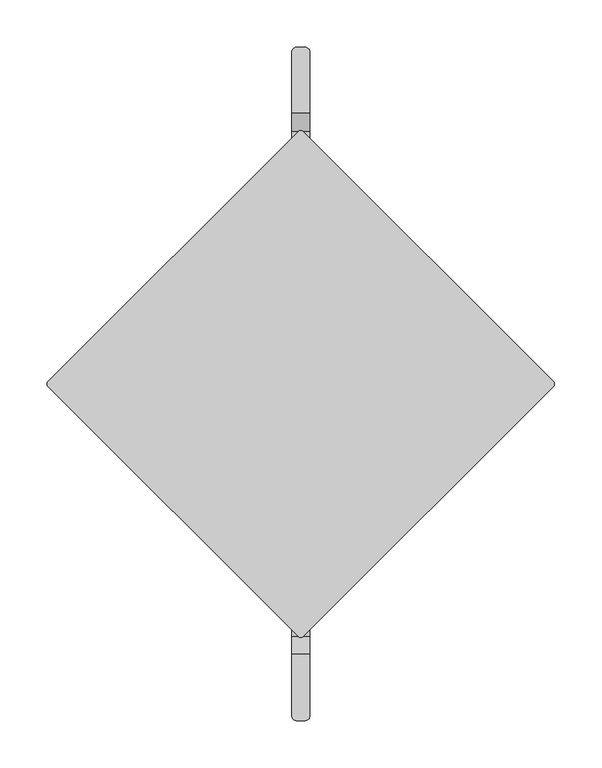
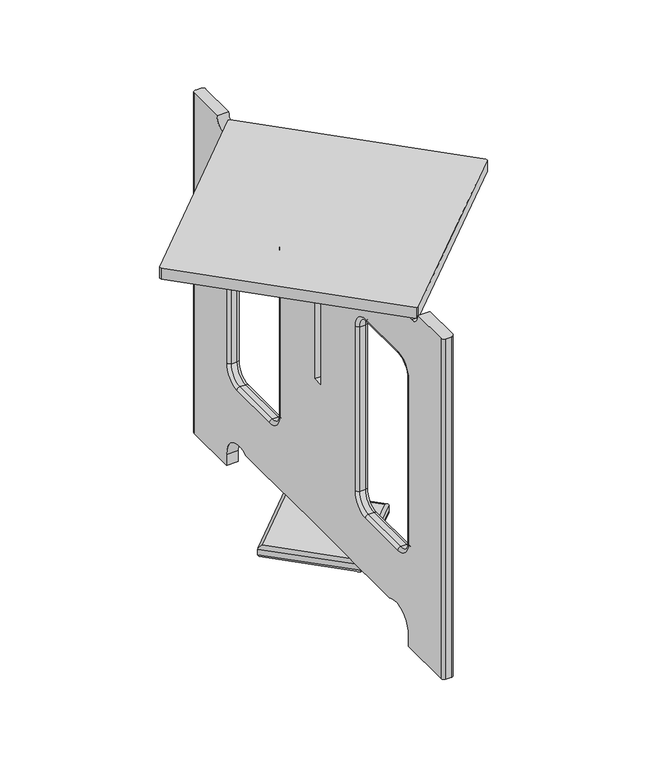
"""IFC4 building model written with IfcOpenShell, lengths in millimetres: furniture geometry, SSL-Childcraft_Outdoor-Table-Round : 2161364."""

from ifc_helpers import new_model, si_unit, point, frame, origin, place, context, project, spatial, polyline, circle_curve, ellipse_curve, trimmed, outline, extrude, source, transform, mapped, element, save
from ifc_brep_helpers import plane_surface, cylinder_surface, revolved_surface, advanced_brep


def furniture_348bbf7f(model_context):
    return source(origin(), model_context, "Body", "SolidModel", [
        extrude(outline(polyline([(-267.7238856, 1.683798), (-1.683798, 267.7238856), (1.683798, 267.7238856), (267.7238856, 1.683798), (267.7238856, -1.683798), (1.683798, -267.7238856), (-1.683798, -267.7238856), (-267.7238856, -1.683798), (-267.7238856, 1.683798)])), frame((0.0, 0.0, 571.499954), z_axis=(0.0, 0.0, 1.0), x_axis=(1.0, 0.0, 0.0)), (0.0, 0.0, 1.0), 19.050046),
        advanced_brep(
        [(0.0, -107.7630735, 36.5124717), (0.0, -101.0278814, 31.7499717), (101.0278814, 0.0, 31.7499717), (107.7630735, 0.0, 36.5124717), (107.7630735, 0.0, 46.0374717), (0.0, -107.7630735, 46.0374717), (101.0278814, 0.0, 50.7999717), (0.0, -101.0278814, 50.7999717), (0.0, 101.0278814, 31.7499717), (0.0, 107.7630735, 36.5124717), (0.0, 107.7630735, 46.0374717), (0.0, 101.0278814, 50.7999717), (-101.0278814, 0.0, 31.7499717), (-107.7630735, 0.0, 36.5124717), (-107.7630735, 0.0, 46.0374717), (-101.0278814, 0.0, 50.7999717)],
        [
            (0, 1, ellipse_curve(frame((0.0, -101.0278814, 36.5124717), z_axis=(1.0, 0.0, 0.0), x_axis=(0.0, -1.0, 0.0)), 6.7351921, 4.7625)),
            (1, 2),
            (2, 3, ellipse_curve(frame((101.0278814, 0.0, 36.5124717), z_axis=(0.0, -1.0, 0.0), x_axis=(-1.0, 0.0, 0.0)), 6.7351921, 4.7625)),
            (3, 0),
            (3, 4),
            (4, 5),
            (5, 0),
            (4, 6, ellipse_curve(frame((101.0278814, 0.0, 46.0374717), z_axis=(0.0, -1.0, 0.0), x_axis=(-1.0, 0.0, 0.0)), 6.7351921, 4.7625)),
            (6, 7),
            (7, 5, ellipse_curve(frame((0.0, -101.0278814, 46.0374717), z_axis=(1.0, 0.0, 0.0), x_axis=(0.0, -1.0, 0.0)), 6.7351921, 4.7625)),
            (2, 8),
            (8, 9, ellipse_curve(frame((0.0, 101.0278814, 36.5124717), z_axis=(1.0, 0.0, 0.0), x_axis=(0.0, -1.0, 0.0)), 6.7351921, 4.7625)),
            (9, 3),
            (9, 10),
            (10, 4),
            (10, 11, ellipse_curve(frame((0.0, 101.0278814, 46.0374717), z_axis=(1.0, 0.0, 0.0), x_axis=(0.0, -1.0, 0.0)), 6.7351921, 4.7625)),
            (11, 6),
            (8, 12),
            (12, 13, ellipse_curve(frame((-101.0278814, 0.0, 36.5124717), z_axis=(0.0, 1.0, 0.0), x_axis=(1.0, 0.0, 0.0)), 6.7351921, 4.7625)),
            (13, 9),
            (13, 14),
            (14, 10),
            (14, 15, ellipse_curve(frame((-101.0278814, 0.0, 46.0374717), z_axis=(0.0, 1.0, 0.0), x_axis=(1.0, 0.0, 0.0)), 6.7351921, 4.7625)),
            (15, 11),
            (1, 12),
            (0, 13),
            (5, 14),
            (7, 15),
        ],
        [
            cylinder_surface(frame((-3.367596, -104.3954774, 36.5124717), z_axis=(-0.7071067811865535, -0.7071067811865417, 0.0), x_axis=(-0.7071067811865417, 0.7071067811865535, 0.0)), 4.7625),
            plane_surface(frame((0.0, -107.7630735, 36.5124717), z_axis=(0.7071067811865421, -0.707106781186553, 0.0), x_axis=(0.707106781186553, 0.7071067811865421, 0.0))),
            cylinder_surface(frame((-3.367596, -104.3954774, 46.0374717), z_axis=(-0.7071067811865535, -0.7071067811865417, 0.0), x_axis=(-0.7071067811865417, 0.7071067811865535, 0.0)), 4.7625),
            cylinder_surface(frame((104.3954774, -3.367596, 36.5124717), z_axis=(0.7071067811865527, -0.7071067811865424, 0.0), x_axis=(-0.7071067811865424, -0.7071067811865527, 0.0)), 4.7625),
            plane_surface(frame((107.7630735, 0.0, 36.5124717), z_axis=(0.7071067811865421, 0.707106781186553, 0.0), x_axis=(-0.707106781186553, 0.7071067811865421, 0.0))),
            cylinder_surface(frame((104.3954774, -3.367596, 46.0374717), z_axis=(0.7071067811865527, -0.7071067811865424, 0.0), x_axis=(-0.7071067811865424, -0.7071067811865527, 0.0)), 4.7625),
            cylinder_surface(frame((3.367596, 104.3954774, 36.5124717), z_axis=(0.7071067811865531, 0.707106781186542, 0.0), x_axis=(0.707106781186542, -0.7071067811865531, 0.0)), 4.7625),
            plane_surface(frame((0.0, 107.7630735, 36.5124717), z_axis=(-0.7071067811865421, 0.707106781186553, 0.0), x_axis=(-0.707106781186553, -0.7071067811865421, 0.0))),
            cylinder_surface(frame((3.367596, 104.3954774, 46.0374717), z_axis=(0.7071067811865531, 0.707106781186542, 0.0), x_axis=(0.707106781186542, -0.7071067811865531, 0.0)), 4.7625),
            plane_surface(frame((-99.9053493, 0.0, 31.7499717), z_axis=(0.0, 0.0, -1.0), x_axis=(0.7071067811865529, -0.7071067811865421, 0.0))),
            cylinder_surface(frame((-104.3954774, 3.367596, 36.5124717), z_axis=(-0.707106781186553, 0.707106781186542, 0.0), x_axis=(0.707106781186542, 0.707106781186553, 0.0)), 4.7625),
            plane_surface(frame((-107.7630735, 0.0, 36.5124717), z_axis=(-0.7071067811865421, -0.707106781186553, 0.0), x_axis=(0.707106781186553, -0.7071067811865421, 0.0))),
            cylinder_surface(frame((-104.3954774, 3.367596, 46.0374717), z_axis=(-0.707106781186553, 0.707106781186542, 0.0), x_axis=(0.707106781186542, 0.707106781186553, 0.0)), 4.7625),
            plane_surface(frame((-101.0278814, 0.0, 50.7999717), z_axis=(0.0, 0.0, 1.0000000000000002), x_axis=(0.707106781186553, -0.7071067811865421, 0.0))),
        ],
        [
            (0, [[1, 2, 3, 4]]),
            (1, [[-4, 5, 6, 7]]),
            (2, [[-6, 8, 9, 10]]),
            (3, [[-3, 11, 12, 13]]),
            (4, [[-5, -13, 14, 15]]),
            (5, [[-8, -15, 16, 17]]),
            (6, [[-12, 18, 19, 20]]),
            (7, [[-14, -20, 21, 22]]),
            (8, [[-16, -22, 23, 24]]),
            (9, [[-2, 25, -18, -11]]),
            (10, [[-1, 26, -19, -25]]),
            (11, [[-7, 27, -21, -26]]),
            (12, [[-10, 28, -23, -27]]),
            (13, [[-9, -17, -24, -28]]),
        ],
    ),
        advanced_brep(
        [(9.525, 9.525, 571.499954), (9.525, 9.525, 301.6249575), (9.525, -9.525, 301.6249575), (9.525, -9.525, 571.499954), (9.525, -266.7, 571.499954), (9.525, -285.7499947, 590.5499487), (9.525, -350.8375, 590.55), (9.525, -350.8375, 0.0), (9.525, -258.7625106, 0.0), (9.525, -258.7625106, 19.0499717), (9.525, -204.2194766, 50.7999717), (9.525, 204.2194554, 50.7999717), (9.525, 258.7624894, 19.0499717), (9.525, 258.7624894, 0.0), (9.525, 350.8375, 0.0), (9.525, 350.8375, 590.55), (9.525, 285.7500064, 590.5499636), (9.525, 266.6999968, 571.499954), (9.525, -257.9687606, 463.5372433), (9.525, -228.5873106, 492.9186933), (9.525, -136.5250106, 492.9186933), (9.525, -107.1562606, 463.5499433), (9.525, -107.1562606, 177.7999717), (9.525, -136.5250106, 148.4312217), (9.525, -228.6000106, 148.4312217), (9.525, -257.9687606, 177.7999717), (9.525, 107.1562606, 463.5499433), (9.525, 136.5250106, 492.9186933), (9.525, 228.5873106, 492.9186933), (9.525, 257.9687606, 463.5372433), (9.525, 257.9687606, 177.7999717), (9.525, 228.6000106, 148.4312217), (9.525, 136.5250106, 148.4312217), (9.525, 107.1562606, 177.7999717), (-9.525, 9.525, 571.499954), (-9.525, 266.6999968, 571.499954), (-9.525, 285.7500064, 590.5499636), (-9.525, 350.8375, 590.55), (-9.525, 350.8375, 0.0), (-9.525, 258.7624894, 0.0), (-9.525, 258.7624894, 19.0499717), (-9.525, 204.2194554, 50.7999717), (-9.525, -204.2194766, 50.7999717), (-9.525, -258.7625106, 19.0499717), (-9.525, -258.7625106, 0.0), (-9.525, -350.8375, 0.0), (-9.525, -350.8375, 590.55), (-9.525, -285.7499947, 590.5499487), (-9.525, -266.7, 571.499954), (-9.525, -9.525, 571.499954), (-9.525, -9.525, 301.6249575), (-9.525, 9.525, 301.6249575), (-9.525, -228.5873106, 492.9186933), (-9.525, -257.9687606, 463.5372433), (-9.525, -257.9687606, 177.7999717), (-9.525, -228.6000106, 148.4312217), (-9.525, -136.5250106, 148.4312217), (-9.525, -107.1562606, 177.7999717), (-9.525, -107.1562606, 463.5499433), (-9.525, -136.5250106, 492.9186933), (-9.525, 136.5250106, 492.9186933), (-9.525, 107.1562606, 463.5499433), (-9.525, 107.1562606, 177.7999717), (-9.525, 136.5250106, 148.4312217), (-9.525, 228.6000106, 148.4312217), (-9.525, 257.9687606, 177.7999717), (-9.525, 257.9687606, 463.5372433), (-9.525, 228.5873106, 492.9186933), (-4.7625, 355.6, 0.0), (4.7625, 355.6, 0.0), (4.7625, -355.6, 0.0), (-4.7625, -355.6, 0.0), (4.7625, 355.6, 590.5499636), (-4.7625, 355.6, 590.5499636), (-4.7625, -355.6, 590.5499636), (4.7625, -355.6, 590.5499636), (4.7625, -253.2062606, 463.5372433), (4.7625, -228.5873106, 488.1561933), (-4.7625, -253.2062606, 463.5372433), (-4.7625, -228.5873106, 488.1561933), (4.7625, -253.2062606, 177.7999717), (-4.7625, -253.2062606, 177.7999717), (4.7625, -228.6000106, 153.1937217), (-4.7625, -228.6000106, 153.1937217), (4.7625, -136.5250106, 153.1937217), (-4.7625, -136.5250106, 153.1937217), (4.7625, -111.9187606, 177.7999717), (-4.7625, -111.9187606, 177.7999717), (4.7625, -111.9187606, 463.5499433), (-4.7625, -111.9187606, 463.5499433), (4.7625, -136.5250106, 488.1561933), (-4.7625, -136.5250106, 488.1561933), (4.7625, 111.9187606, 463.5499433), (4.7625, 136.5250106, 488.1561933), (-4.7625, 111.9187606, 463.5499433), (-4.7625, 136.5250106, 488.1561933), (4.7625, 111.9187606, 177.7999717), (-4.7625, 111.9187606, 177.7999717), (4.7625, 136.5250106, 153.1937217), (-4.7625, 136.5250106, 153.1937217), (4.7625, 228.6000106, 153.1937217), (-4.7625, 228.6000106, 153.1937217), (4.7625, 253.2062606, 177.7999717), (-4.7625, 253.2062606, 177.7999717), (4.7625, 253.2062606, 463.5372433), (-4.7625, 253.2062606, 463.5372433), (4.7625, 228.5873106, 488.1561933), (-4.7625, 228.5873106, 488.1561933)],
        [
            (0, 1),
            (1, 2),
            (2, 3),
            (3, 4),
            (4, 5, circle_curve(frame((9.525, -266.7, 590.5499487), z_axis=(-1.0, 0.0, 0.0), x_axis=(0.0, 1.0, 0.0)), 19.0499947)),
            (5, 6),
            (6, 7),
            (7, 8),
            (8, 9),
            (9, 10, circle_curve(frame((9.525, -222.2500106, 19.0499717), z_axis=(-1.0, 0.0, 0.0), x_axis=(0.0, 1.0, 0.0)), 36.5125)),
            (10, 11),
            (11, 12, circle_curve(frame((9.525, 222.2499894, 19.0499717), z_axis=(-1.0, 0.0, 0.0), x_axis=(0.0, 1.0, 0.0)), 36.5125)),
            (12, 13),
            (13, 14),
            (14, 15),
            (15, 16),
            (16, 17, circle_curve(frame((9.525, 266.6999968, 590.5499636), z_axis=(-1.0, 0.0, 0.0), x_axis=(0.0, 1.0, 0.0)), 19.0500096)),
            (17, 0),
            (18, 19, circle_curve(frame((9.525, -228.5873106, 463.5372433), z_axis=(-1.0, 0.0, 0.0), x_axis=(0.0, 0.0, 1.0)), 29.38145)),
            (19, 20),
            (20, 21, circle_curve(frame((9.525, -136.5250106, 463.5499433), z_axis=(-1.0, 0.0, 0.0), x_axis=(0.0, 1.0, 0.0)), 29.36875)),
            (21, 22),
            (22, 23, circle_curve(frame((9.525, -136.5250106, 177.7999717), z_axis=(-1.0, 0.0, 0.0), x_axis=(0.0, 0.0, -1.0)), 29.36875)),
            (23, 24),
            (24, 25, circle_curve(frame((9.525, -228.6000106, 177.7999717), z_axis=(-1.0, 0.0, 0.0), x_axis=(0.0, -1.0, 0.0)), 29.36875)),
            (25, 18),
            (26, 27, circle_curve(frame((9.525, 136.5250106, 463.5499433), z_axis=(-1.0, 0.0, 0.0), x_axis=(0.0, 0.0, 1.0)), 29.36875)),
            (27, 28),
            (28, 29, circle_curve(frame((9.525, 228.5873106, 463.5372433), z_axis=(-1.0, 0.0, 0.0), x_axis=(0.0, 1.0, 0.0)), 29.38145)),
            (29, 30),
            (30, 31, circle_curve(frame((9.525, 228.6000106, 177.7999717), z_axis=(-1.0, 0.0, 0.0), x_axis=(0.0, 0.0, -1.0)), 29.36875)),
            (31, 32),
            (32, 33, circle_curve(frame((9.525, 136.5250106, 177.7999717), z_axis=(-1.0, 0.0, 0.0), x_axis=(0.0, -1.0, 0.0)), 29.36875)),
            (33, 26),
            (34, 35),
            (35, 36, circle_curve(frame((-9.525, 266.6999968, 590.5499636), z_axis=(1.0, 0.0, 0.0), x_axis=(0.0, 1.0, 0.0)), 19.0500096)),
            (36, 37),
            (37, 38),
            (38, 39),
            (39, 40),
            (40, 41, circle_curve(frame((-9.525, 222.2499894, 19.0499717), z_axis=(1.0, 0.0, 0.0), x_axis=(0.0, 1.0, 0.0)), 36.5125)),
            (41, 42),
            (42, 43, circle_curve(frame((-9.525, -222.2500106, 19.0499717), z_axis=(1.0, 0.0, 0.0), x_axis=(0.0, 1.0, 0.0)), 36.5125)),
            (43, 44),
            (44, 45),
            (45, 46),
            (46, 47),
            (47, 48, circle_curve(frame((-9.525, -266.7, 590.5499487), z_axis=(1.0, 0.0, 0.0), x_axis=(0.0, 1.0, 0.0)), 19.0499947)),
            (48, 49),
            (49, 50),
            (50, 51),
            (51, 34),
            (52, 53, circle_curve(frame((-9.525, -228.5873106, 463.5372433), z_axis=(1.0, 0.0, 0.0), x_axis=(0.0, 0.0, 1.0)), 29.38145)),
            (53, 54),
            (54, 55, circle_curve(frame((-9.525, -228.6000106, 177.7999717), z_axis=(1.0, 0.0, 0.0), x_axis=(0.0, -1.0, 0.0)), 29.36875)),
            (55, 56),
            (56, 57, circle_curve(frame((-9.525, -136.5250106, 177.7999717), z_axis=(1.0, 0.0, 0.0), x_axis=(0.0, 0.0, -1.0)), 29.36875)),
            (57, 58),
            (58, 59, circle_curve(frame((-9.525, -136.5250106, 463.5499433), z_axis=(1.0, 0.0, 0.0), x_axis=(0.0, 1.0, 0.0)), 29.36875)),
            (59, 52),
            (60, 61, circle_curve(frame((-9.525, 136.5250106, 463.5499433), z_axis=(1.0, 0.0, 0.0), x_axis=(0.0, 0.0, 1.0)), 29.36875)),
            (61, 62),
            (62, 63, circle_curve(frame((-9.525, 136.5250106, 177.7999717), z_axis=(1.0, 0.0, 0.0), x_axis=(0.0, -1.0, 0.0)), 29.36875)),
            (63, 64),
            (64, 65, circle_curve(frame((-9.525, 228.6000106, 177.7999717), z_axis=(1.0, 0.0, 0.0), x_axis=(0.0, 0.0, -1.0)), 29.36875)),
            (65, 66),
            (66, 67, circle_curve(frame((-9.525, 228.5873106, 463.5372433), z_axis=(1.0, 0.0, 0.0), x_axis=(0.0, 1.0, 0.0)), 29.38145)),
            (67, 60),
            (13, 39),
            (38, 68, circle_curve(frame((-4.7625, 350.8375, 0.0), z_axis=(0.0, 0.0, -1.0), x_axis=(1.0, 0.0, 0.0)), 4.7625)),
            (68, 69),
            (69, 14, circle_curve(frame((4.7625, 350.8375, 0.0), z_axis=(0.0, 0.0, -1.0), x_axis=(1.0, 0.0, 0.0)), 4.7625)),
            (44, 8),
            (7, 70, circle_curve(frame((4.7625, -350.8375, 0.0), z_axis=(0.0, 0.0, -1.0), x_axis=(1.0, 0.0, 0.0)), 4.7625)),
            (70, 71),
            (71, 45, circle_curve(frame((-4.7625, -350.8375, 0.0), z_axis=(0.0, 0.0, -1.0), x_axis=(1.0, 0.0, 0.0)), 4.7625)),
            (36, 16),
            (15, 72, circle_curve(frame((4.7625, 350.8375, 590.5499636), z_axis=(0.0, 0.0, 1.0), x_axis=(1.0, 0.0, 0.0)), 4.7625)),
            (72, 73),
            (73, 37, circle_curve(frame((-4.7625, 350.8375, 590.5499636), z_axis=(0.0, 0.0, 1.0), x_axis=(1.0, 0.0, 0.0)), 4.7625)),
            (5, 47),
            (46, 74, circle_curve(frame((-4.7625, -350.8375, 590.5499636), z_axis=(0.0, 0.0, 1.0), x_axis=(1.0, 0.0, 0.0)), 4.7625)),
            (74, 75),
            (75, 6, circle_curve(frame((4.7625, -350.8375, 590.5499636), z_axis=(0.0, 0.0, 1.0), x_axis=(1.0, 0.0, 0.0)), 4.7625)),
            (35, 17),
            (34, 0),
            (51, 1),
            (50, 2),
            (49, 3),
            (48, 4),
            (43, 9),
            (42, 10),
            (41, 11),
            (40, 12),
            (72, 69),
            (68, 73),
            (71, 74),
            (70, 75),
            (76, 77, circle_curve(frame((4.7625, -228.5873106, 463.5372433), z_axis=(-1.0, 0.0, 0.0), x_axis=(0.0, 0.0, 1.0)), 24.61895)),
            (77, 19, circle_curve(frame((4.7625, -228.5873106, 492.9186933), z_axis=(0.0, -1.0, 0.0), x_axis=(0.0, 0.0, -1.0)), 4.7625)),
            (18, 76, circle_curve(frame((4.7625, -257.9687606, 463.5372433), z_axis=(0.0, 0.0, 1.0), x_axis=(0.0, 1.0, 0.0)), 4.7625)),
            (76, 78),
            (78, 79, circle_curve(frame((-4.7625, -228.5873106, 463.5372433), z_axis=(-1.0, 0.0, 0.0), x_axis=(0.0, 0.0, 1.0)), 24.61895)),
            (79, 77),
            (78, 53, circle_curve(frame((-4.7625, -257.9687606, 463.5372433), z_axis=(0.0, 0.0, 1.0), x_axis=(0.0, 1.0, 0.0)), 4.7625)),
            (52, 79, circle_curve(frame((-4.7625, -228.5873106, 492.9186933), z_axis=(0.0, -1.0, 0.0), x_axis=(0.0, 0.0, -1.0)), 4.7625)),
            (25, 80, circle_curve(frame((4.7625, -257.9687606, 177.7999717), z_axis=(0.0, 0.0, 1.0), x_axis=(0.0, 1.0, 0.0)), 4.7625)),
            (80, 76),
            (80, 81),
            (81, 78),
            (81, 54, circle_curve(frame((-4.7625, -257.9687606, 177.7999717), z_axis=(0.0, 0.0, 1.0), x_axis=(0.0, 1.0, 0.0)), 4.7625)),
            (24, 82, circle_curve(frame((4.7625, -228.6000106, 148.4312217), z_axis=(0.0, -1.0, 0.0), x_axis=(0.0, 0.0, 1.0)), 4.7625)),
            (82, 80, circle_curve(frame((4.7625, -228.6000106, 177.7999717), z_axis=(-1.0, 0.0, 0.0), x_axis=(0.0, -1.0, 0.0)), 24.60625)),
            (82, 83),
            (83, 81, circle_curve(frame((-4.7625, -228.6000106, 177.7999717), z_axis=(-1.0, 0.0, 0.0), x_axis=(0.0, -1.0, 0.0)), 24.60625)),
            (83, 55, circle_curve(frame((-4.7625, -228.6000106, 148.4312217), z_axis=(0.0, -1.0, 0.0), x_axis=(0.0, 0.0, 1.0)), 4.7625)),
            (23, 84, circle_curve(frame((4.7625, -136.5250106, 148.4312217), z_axis=(0.0, -1.0, 0.0), x_axis=(0.0, 0.0, 1.0)), 4.7625)),
            (84, 82),
            (84, 85),
            (85, 83),
            (85, 56, circle_curve(frame((-4.7625, -136.5250106, 148.4312217), z_axis=(0.0, -1.0, 0.0), x_axis=(0.0, 0.0, 1.0)), 4.7625)),
            (22, 86, circle_curve(frame((4.7625, -107.1562606, 177.7999717), z_axis=(0.0, 0.0, -1.0), x_axis=(0.0, -1.0, 0.0)), 4.7625)),
            (86, 84, circle_curve(frame((4.7625, -136.5250106, 177.7999717), z_axis=(-1.0, 0.0, 0.0), x_axis=(0.0, 0.0, -1.0)), 24.60625)),
            (86, 87),
            (87, 85, circle_curve(frame((-4.7625, -136.5250106, 177.7999717), z_axis=(-1.0, 0.0, 0.0), x_axis=(0.0, 0.0, -1.0)), 24.60625)),
            (87, 57, circle_curve(frame((-4.7625, -107.1562606, 177.7999717), z_axis=(0.0, 0.0, -1.0), x_axis=(0.0, -1.0, 0.0)), 4.7625)),
            (21, 88, circle_curve(frame((4.7625, -107.1562606, 463.5499433), z_axis=(0.0, 0.0, -1.0), x_axis=(0.0, -1.0, 0.0)), 4.7625)),
            (88, 86),
            (88, 89),
            (89, 87),
            (89, 58, circle_curve(frame((-4.7625, -107.1562606, 463.5499433), z_axis=(0.0, 0.0, -1.0), x_axis=(0.0, -1.0, 0.0)), 4.7625)),
            (20, 90, circle_curve(frame((4.7625, -136.5250106, 492.9186933), z_axis=(0.0, 1.0, 0.0), x_axis=(0.0, 0.0, -1.0)), 4.7625)),
            (90, 88, circle_curve(frame((4.7625, -136.5250106, 463.5499433), z_axis=(-1.0, 0.0, 0.0), x_axis=(0.0, 1.0, 0.0)), 24.60625)),
            (90, 91),
            (91, 89, circle_curve(frame((-4.7625, -136.5250106, 463.5499433), z_axis=(-1.0, 0.0, 0.0), x_axis=(0.0, 1.0, 0.0)), 24.60625)),
            (91, 59, circle_curve(frame((-4.7625, -136.5250106, 492.9186933), z_axis=(0.0, 1.0, 0.0), x_axis=(0.0, 0.0, -1.0)), 4.7625)),
            (77, 90),
            (79, 91),
            (92, 93, circle_curve(frame((4.7625, 136.5250106, 463.5499433), z_axis=(-1.0, 0.0, 0.0), x_axis=(0.0, 0.0, 1.0)), 24.60625)),
            (93, 27, circle_curve(frame((4.7625, 136.5250106, 492.9186933), z_axis=(0.0, -1.0, 0.0), x_axis=(0.0, 0.0, -1.0)), 4.7625)),
            (26, 92, circle_curve(frame((4.7625, 107.1562606, 463.5499433), z_axis=(0.0, 0.0, 1.0), x_axis=(0.0, 1.0, 0.0)), 4.7625)),
            (92, 94),
            (94, 95, circle_curve(frame((-4.7625, 136.5250106, 463.5499433), z_axis=(-1.0, 0.0, 0.0), x_axis=(0.0, 0.0, 1.0)), 24.60625)),
            (95, 93),
            (94, 61, circle_curve(frame((-4.7625, 107.1562606, 463.5499433), z_axis=(0.0, 0.0, 1.0), x_axis=(0.0, 1.0, 0.0)), 4.7625)),
            (60, 95, circle_curve(frame((-4.7625, 136.5250106, 492.9186933), z_axis=(0.0, -1.0, 0.0), x_axis=(0.0, 0.0, -1.0)), 4.7625)),
            (33, 96, circle_curve(frame((4.7625, 107.1562606, 177.7999717), z_axis=(0.0, 0.0, 1.0), x_axis=(0.0, 1.0, 0.0)), 4.7625)),
            (96, 92),
            (96, 97),
            (97, 94),
            (97, 62, circle_curve(frame((-4.7625, 107.1562606, 177.7999717), z_axis=(0.0, 0.0, 1.0), x_axis=(0.0, 1.0, 0.0)), 4.7625)),
            (32, 98, circle_curve(frame((4.7625, 136.5250106, 148.4312217), z_axis=(0.0, -1.0, 0.0), x_axis=(0.0, 0.0, 1.0)), 4.7625)),
            (98, 96, circle_curve(frame((4.7625, 136.5250106, 177.7999717), z_axis=(-1.0, 0.0, 0.0), x_axis=(0.0, -1.0, 0.0)), 24.60625)),
            (98, 99),
            (99, 97, circle_curve(frame((-4.7625, 136.5250106, 177.7999717), z_axis=(-1.0, 0.0, 0.0), x_axis=(0.0, -1.0, 0.0)), 24.60625)),
            (99, 63, circle_curve(frame((-4.7625, 136.5250106, 148.4312217), z_axis=(0.0, -1.0, 0.0), x_axis=(0.0, 0.0, 1.0)), 4.7625)),
            (31, 100, circle_curve(frame((4.7625, 228.6000106, 148.4312217), z_axis=(0.0, -1.0, 0.0), x_axis=(0.0, 0.0, 1.0)), 4.7625)),
            (100, 98),
            (100, 101),
            (101, 99),
            (101, 64, circle_curve(frame((-4.7625, 228.6000106, 148.4312217), z_axis=(0.0, -1.0, 0.0), x_axis=(0.0, 0.0, 1.0)), 4.7625)),
            (30, 102, circle_curve(frame((4.7625, 257.9687606, 177.7999717), z_axis=(0.0, 0.0, -1.0), x_axis=(0.0, -1.0, 0.0)), 4.7625)),
            (102, 100, circle_curve(frame((4.7625, 228.6000106, 177.7999717), z_axis=(-1.0, 0.0, 0.0), x_axis=(0.0, 0.0, -1.0)), 24.60625)),
            (102, 103),
            (103, 101, circle_curve(frame((-4.7625, 228.6000106, 177.7999717), z_axis=(-1.0, 0.0, 0.0), x_axis=(0.0, 0.0, -1.0)), 24.60625)),
            (103, 65, circle_curve(frame((-4.7625, 257.9687606, 177.7999717), z_axis=(0.0, 0.0, -1.0), x_axis=(0.0, -1.0, 0.0)), 4.7625)),
            (29, 104, circle_curve(frame((4.7625, 257.9687606, 463.5372433), z_axis=(0.0, 0.0, -1.0), x_axis=(0.0, -1.0, 0.0)), 4.7625)),
            (104, 102),
            (104, 105),
            (105, 103),
            (105, 66, circle_curve(frame((-4.7625, 257.9687606, 463.5372433), z_axis=(0.0, 0.0, -1.0), x_axis=(0.0, -1.0, 0.0)), 4.7625)),
            (28, 106, circle_curve(frame((4.7625, 228.5873106, 492.9186933), z_axis=(0.0, 1.0, 0.0), x_axis=(0.0, 0.0, -1.0)), 4.7625)),
            (106, 104, circle_curve(frame((4.7625, 228.5873106, 463.5372433), z_axis=(-1.0, 0.0, 0.0), x_axis=(0.0, 1.0, 0.0)), 24.61895)),
            (106, 107),
            (107, 105, circle_curve(frame((-4.7625, 228.5873106, 463.5372433), z_axis=(-1.0, 0.0, 0.0), x_axis=(0.0, 1.0, 0.0)), 24.61895)),
            (107, 67, circle_curve(frame((-4.7625, 228.5873106, 492.9186933), z_axis=(0.0, 1.0, 0.0), x_axis=(0.0, 0.0, -1.0)), 4.7625)),
            (93, 106),
            (95, 107),
        ],
        [
            plane_surface(frame((9.525, 258.7625106, 177.7999717), z_axis=(1.0, 0.0, 0.0), x_axis=(0.0, 0.0, -1.0))),
            plane_surface(frame((-9.525, 258.7625106, 177.7999717), z_axis=(-1.0, 0.0, 0.0), x_axis=(0.0, 0.0, 1.0))),
            plane_surface(frame((9.525, 258.7624894, 0.0), z_axis=(0.0, 0.0, -1.0), x_axis=(-1.0, 0.0, 0.0))),
            plane_surface(frame((9.525, 350.04375, 590.5499636), z_axis=(0.0, 0.0, 1.0), x_axis=(-1.0, 0.0, 0.0))),
            revolved_surface(polyline([(-9.525, 285.7500064, 590.5499636), (9.525, 285.7500064, 590.5499636)]), (0.0, 266.6999968, 590.5499636), (-1.0, 0.0, 0.0)),
            plane_surface(frame((9.525, 266.6999968, 571.499954), z_axis=(0.0, 0.0, 1.0), x_axis=(-1.0, 0.0, 0.0))),
            plane_surface(frame((9.525, 9.525, 571.499954), z_axis=(0.0, -1.0, 0.0), x_axis=(-1.0, 0.0, 0.0))),
            plane_surface(frame((9.525, 9.525, 301.6249575), z_axis=(0.0, 0.0, 1.0), x_axis=(-1.0, 0.0, 0.0))),
            plane_surface(frame((9.525, -9.525, 301.6249575), z_axis=(0.0, 1.0, 0.0), x_axis=(-1.0, 0.0, 0.0))),
            plane_surface(frame((9.525, -9.525, 571.499954), z_axis=(0.0, 0.0, 1.0), x_axis=(-1.0, 0.0, 0.0))),
            revolved_surface(polyline([(-9.525, -247.65000529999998, 590.5499487), (9.525, -247.65000529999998, 590.5499487)]), (0.0, -266.7, 590.5499487), (-1.0, 0.0, 0.0)),
            plane_surface(frame((9.525, -258.7625106, 0.0), z_axis=(0.0, 1.0, 0.0), x_axis=(-1.0, 0.0, 0.0))),
            revolved_surface(polyline([(-9.525, -185.7375106, 19.0499717), (9.525, -185.7375106, 19.0499717)]), (0.0, -222.2500106, 19.0499717), (-1.0, 0.0, 0.0)),
            plane_surface(frame((9.525, -204.2194766, 50.7999717), z_axis=(0.0, 0.0, -1.0), x_axis=(-1.0, 0.0, 0.0))),
            revolved_surface(polyline([(-9.525, 258.7624894, 19.0499717), (9.525, 258.7624894, 19.0499717)]), (0.0, 222.2499894, 19.0499717), (-1.0, 0.0, 0.0)),
            plane_surface(frame((9.525, 258.7624894, 19.0499717), z_axis=(0.0, -1.0, 0.0), x_axis=(-1.0, 0.0, 0.0))),
            plane_surface(frame((4.7625, 355.6, 590.55), z_axis=(0.0, 1.0, 0.0), x_axis=(0.0, 0.0, -1.0))),
            cylinder_surface(frame((-4.7625, 350.8375, 0.0), z_axis=(0.0, 0.0, 1.0), x_axis=(1.0, 0.0, 0.0)), 4.7625),
            cylinder_surface(frame((4.7625, 350.8375, 0.0), z_axis=(0.0, 0.0, 1.0), x_axis=(1.0, 0.0, 0.0)), 4.7625),
            cylinder_surface(frame((-4.7625, -350.8375, 0.0), z_axis=(0.0, 0.0, 1.0), x_axis=(1.0, 0.0, 0.0)), 4.7625),
            plane_surface(frame((-4.7625, -355.6, 590.55), z_axis=(0.0, -1.0, 0.0), x_axis=(0.0, 0.0, -1.0))),
            cylinder_surface(frame((4.7625, -350.8375, 0.0), z_axis=(0.0, 0.0, 1.0), x_axis=(1.0, 0.0, 0.0)), 4.7625),
            revolved_surface(trimmed(ellipse_curve(frame((4.7625, -228.5873106, 492.9186933), z_axis=(0.0, 1.0, 0.0), x_axis=(0.0, 0.0, -1.0)), 4.7625, 4.7625), [point((9.525, -228.5873106, 492.9186933))], [point((4.7625, -228.5873106, 488.1561933))], True, "CARTESIAN"), (0.0, -228.5873106, 463.5372433), (1.0, 0.0, 0.0)),
            revolved_surface(polyline([(4.7625, -228.5873106, 488.1561933), (-4.7625, -228.5873106, 488.1561933)]), (0.0, -228.5873106, 463.5372433), (1.0, 0.0, 0.0)),
            revolved_surface(trimmed(ellipse_curve(frame((-4.7625, -228.5873106, 492.9186933), z_axis=(0.0, 1.0, 0.0), x_axis=(0.0, 0.0, -1.0)), 4.7625, 4.7625), [point((-4.7625, -228.5873106, 488.1561933))], [point((-9.525, -228.5873106, 492.9186933))], True, "CARTESIAN"), (0.0, -228.5873106, 463.5372433), (1.0, 0.0, 0.0)),
            cylinder_surface(frame((4.7625, -257.9687606, 463.5372433), z_axis=(0.0, 0.0, 1.0), x_axis=(0.0, 1.0, 0.0)), 4.7625),
            plane_surface(frame((4.7625, -253.2062606, 463.5372433), z_axis=(0.0, 1.0, 0.0), x_axis=(0.0, 0.0, -1.0))),
            cylinder_surface(frame((-4.7625, -257.9687606, 463.5372433), z_axis=(0.0, 0.0, 1.0), x_axis=(0.0, 1.0, 0.0)), 4.7625),
            revolved_surface(trimmed(ellipse_curve(frame((4.7625, -257.9687606, 177.7999717), z_axis=(0.0, 0.0, 1.0), x_axis=(0.0, 1.0, 0.0)), 4.7625, 4.7625), [point((9.525, -257.9687606, 177.7999717))], [point((4.7625, -253.2062606, 177.7999717))], True, "CARTESIAN"), (0.0, -228.6000106, 177.7999717), (1.0, 0.0, 0.0)),
            revolved_surface(polyline([(4.7625, -253.20626059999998, 177.7999717), (-4.7625, -253.20626059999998, 177.7999717)]), (0.0, -228.6000106, 177.7999717), (1.0, 0.0, 0.0)),
            revolved_surface(trimmed(ellipse_curve(frame((-4.7625, -257.9687606, 177.7999717), z_axis=(0.0, 0.0, 1.0), x_axis=(0.0, 1.0, 0.0)), 4.7625, 4.7625), [point((-4.7625, -253.2062606, 177.7999717))], [point((-9.525, -257.9687606, 177.7999717))], True, "CARTESIAN"), (0.0, -228.6000106, 177.7999717), (1.0, 0.0, 0.0)),
            cylinder_surface(frame((4.7625, -228.6000106, 148.4312217), z_axis=(0.0, -1.0, 0.0), x_axis=(0.0, 0.0, 1.0)), 4.7625),
            plane_surface(frame((4.7625, -228.6000106, 153.1937217), z_axis=(0.0, 0.0, 1.0), x_axis=(0.0, 1.0, 0.0))),
            cylinder_surface(frame((-4.7625, -228.6000106, 148.4312217), z_axis=(0.0, -1.0, 0.0), x_axis=(0.0, 0.0, 1.0)), 4.7625),
            revolved_surface(trimmed(ellipse_curve(frame((4.7625, -136.5250106, 148.4312217), z_axis=(0.0, -1.0, 0.0), x_axis=(0.0, 0.0, 1.0)), 4.7625, 4.7625), [point((9.525, -136.5250106, 148.4312217))], [point((4.7625, -136.5250106, 153.1937217))], True, "CARTESIAN"), (0.0, -136.5250106, 177.7999717), (1.0, 0.0, 0.0)),
            revolved_surface(polyline([(4.7625, -136.5250106, 153.1937217), (-4.7625, -136.5250106, 153.1937217)]), (0.0, -136.5250106, 177.7999717), (1.0, 0.0, 0.0)),
            revolved_surface(trimmed(ellipse_curve(frame((-4.7625, -136.5250106, 148.4312217), z_axis=(0.0, -1.0, 0.0), x_axis=(0.0, 0.0, 1.0)), 4.7625, 4.7625), [point((-4.7625, -136.5250106, 153.1937217))], [point((-9.525, -136.5250106, 148.4312217))], True, "CARTESIAN"), (0.0, -136.5250106, 177.7999717), (1.0, 0.0, 0.0)),
            cylinder_surface(frame((4.7625, -107.1562606, 177.7999717), z_axis=(0.0, 0.0, -1.0), x_axis=(0.0, -1.0, 0.0)), 4.7625),
            plane_surface(frame((4.7625, -111.9187606, 177.7999717), z_axis=(0.0, -1.0, 0.0), x_axis=(0.0, 0.0, 1.0))),
            cylinder_surface(frame((-4.7625, -107.1562606, 177.7999717), z_axis=(0.0, 0.0, -1.0), x_axis=(0.0, -1.0, 0.0)), 4.7625),
            revolved_surface(trimmed(ellipse_curve(frame((4.7625, -107.1562606, 463.5499433), z_axis=(0.0, 0.0, -1.0), x_axis=(0.0, -1.0, 0.0)), 4.7625, 4.7625), [point((9.525, -107.1562606, 463.5499433))], [point((4.7625, -111.9187606, 463.5499433))], True, "CARTESIAN"), (0.0, -136.5250106, 463.5499433), (1.0, 0.0, 0.0)),
            revolved_surface(polyline([(4.7625, -111.9187606, 463.5499433), (-4.7625, -111.9187606, 463.5499433)]), (0.0, -136.5250106, 463.5499433), (1.0, 0.0, 0.0)),
            revolved_surface(trimmed(ellipse_curve(frame((-4.7625, -107.1562606, 463.5499433), z_axis=(0.0, 0.0, -1.0), x_axis=(0.0, -1.0, 0.0)), 4.7625, 4.7625), [point((-4.7625, -111.9187606, 463.5499433))], [point((-9.525, -107.1562606, 463.5499433))], True, "CARTESIAN"), (0.0, -136.5250106, 463.5499433), (1.0, 0.0, 0.0)),
            cylinder_surface(frame((4.7625, -136.5250106, 492.9186933), z_axis=(0.0, 1.0, 0.0), x_axis=(0.0, 0.0, -1.0)), 4.7625),
            plane_surface(frame((4.7625, -136.5250106, 488.1561933), z_axis=(0.0, 0.0, -1.0), x_axis=(0.0, -1.0, 0.0))),
            cylinder_surface(frame((-4.7625, -136.5250106, 492.9186933), z_axis=(0.0, 1.0, 0.0), x_axis=(0.0, 0.0, -1.0)), 4.7625),
            revolved_surface(trimmed(ellipse_curve(frame((4.7625, 136.5250106, 492.9186933), z_axis=(0.0, 1.0, 0.0), x_axis=(0.0, 0.0, -1.0)), 4.7625, 4.7625), [point((9.525, 136.5250106, 492.9186933))], [point((4.7625, 136.5250106, 488.1561933))], True, "CARTESIAN"), (0.0, 136.5250106, 463.5499433), (1.0, 0.0, 0.0)),
            revolved_surface(polyline([(4.7625, 136.5250106, 488.1561933), (-4.7625, 136.5250106, 488.1561933)]), (0.0, 136.5250106, 463.5499433), (1.0, 0.0, 0.0)),
            revolved_surface(trimmed(ellipse_curve(frame((-4.7625, 136.5250106, 492.9186933), z_axis=(0.0, 1.0, 0.0), x_axis=(0.0, 0.0, -1.0)), 4.7625, 4.7625), [point((-4.7625, 136.5250106, 488.1561933))], [point((-9.525, 136.5250106, 492.9186933))], True, "CARTESIAN"), (0.0, 136.5250106, 463.5499433), (1.0, 0.0, 0.0)),
            cylinder_surface(frame((4.7625, 107.1562606, 463.5499433), z_axis=(0.0, 0.0, 1.0), x_axis=(0.0, 1.0, 0.0)), 4.7625),
            plane_surface(frame((4.7625, 111.9187606, 463.5499433), z_axis=(0.0, 1.0, 0.0), x_axis=(0.0, 0.0, -1.0))),
            cylinder_surface(frame((-4.7625, 107.1562606, 463.5499433), z_axis=(0.0, 0.0, 1.0), x_axis=(0.0, 1.0, 0.0)), 4.7625),
            revolved_surface(trimmed(ellipse_curve(frame((4.7625, 107.1562606, 177.7999717), z_axis=(0.0, 0.0, 1.0), x_axis=(0.0, 1.0, 0.0)), 4.7625, 4.7625), [point((9.525, 107.1562606, 177.7999717))], [point((4.7625, 111.9187606, 177.7999717))], True, "CARTESIAN"), (0.0, 136.5250106, 177.7999717), (1.0, 0.0, 0.0)),
            revolved_surface(polyline([(4.7625, 111.9187606, 177.7999717), (-4.7625, 111.9187606, 177.7999717)]), (0.0, 136.5250106, 177.7999717), (1.0, 0.0, 0.0)),
            revolved_surface(trimmed(ellipse_curve(frame((-4.7625, 107.1562606, 177.7999717), z_axis=(0.0, 0.0, 1.0), x_axis=(0.0, 1.0, 0.0)), 4.7625, 4.7625), [point((-4.7625, 111.9187606, 177.7999717))], [point((-9.525, 107.1562606, 177.7999717))], True, "CARTESIAN"), (0.0, 136.5250106, 177.7999717), (1.0, 0.0, 0.0)),
            cylinder_surface(frame((4.7625, 136.5250106, 148.4312217), z_axis=(0.0, -1.0, 0.0), x_axis=(0.0, 0.0, 1.0)), 4.7625),
            plane_surface(frame((4.7625, 136.5250106, 153.1937217), z_axis=(0.0, 0.0, 1.0), x_axis=(0.0, 1.0, 0.0))),
            cylinder_surface(frame((-4.7625, 136.5250106, 148.4312217), z_axis=(0.0, -1.0, 0.0), x_axis=(0.0, 0.0, 1.0)), 4.7625),
            revolved_surface(trimmed(ellipse_curve(frame((4.7625, 228.6000106, 148.4312217), z_axis=(0.0, -1.0, 0.0), x_axis=(0.0, 0.0, 1.0)), 4.7625, 4.7625), [point((9.525, 228.6000106, 148.4312217))], [point((4.7625, 228.6000106, 153.1937217))], True, "CARTESIAN"), (0.0, 228.6000106, 177.7999717), (1.0, 0.0, 0.0)),
            revolved_surface(polyline([(4.7625, 228.6000106, 153.1937217), (-4.7625, 228.6000106, 153.1937217)]), (0.0, 228.6000106, 177.7999717), (1.0, 0.0, 0.0)),
            revolved_surface(trimmed(ellipse_curve(frame((-4.7625, 228.6000106, 148.4312217), z_axis=(0.0, -1.0, 0.0), x_axis=(0.0, 0.0, 1.0)), 4.7625, 4.7625), [point((-4.7625, 228.6000106, 153.1937217))], [point((-9.525, 228.6000106, 148.4312217))], True, "CARTESIAN"), (0.0, 228.6000106, 177.7999717), (1.0, 0.0, 0.0)),
            cylinder_surface(frame((4.7625, 257.9687606, 177.7999717), z_axis=(0.0, 0.0, -1.0), x_axis=(0.0, -1.0, 0.0)), 4.7625),
            plane_surface(frame((4.7625, 253.2062606, 177.7999717), z_axis=(0.0, -1.0, 0.0), x_axis=(0.0, 0.0, 1.0))),
            cylinder_surface(frame((-4.7625, 257.9687606, 177.7999717), z_axis=(0.0, 0.0, -1.0), x_axis=(0.0, -1.0, 0.0)), 4.7625),
            revolved_surface(trimmed(ellipse_curve(frame((4.7625, 257.9687606, 463.5372433), z_axis=(0.0, 0.0, -1.0), x_axis=(0.0, -1.0, 0.0)), 4.7625, 4.7625), [point((9.525, 257.9687606, 463.5372433))], [point((4.7625, 253.2062606, 463.5372433))], True, "CARTESIAN"), (0.0, 228.5873106, 463.5372433), (1.0, 0.0, 0.0)),
            revolved_surface(polyline([(4.7625, 253.2062606, 463.5372433), (-4.7625, 253.2062606, 463.5372433)]), (0.0, 228.5873106, 463.5372433), (1.0, 0.0, 0.0)),
            revolved_surface(trimmed(ellipse_curve(frame((-4.7625, 257.9687606, 463.5372433), z_axis=(0.0, 0.0, -1.0), x_axis=(0.0, -1.0, 0.0)), 4.7625, 4.7625), [point((-4.7625, 253.2062606, 463.5372433))], [point((-9.525, 257.9687606, 463.5372433))], True, "CARTESIAN"), (0.0, 228.5873106, 463.5372433), (1.0, 0.0, 0.0)),
            cylinder_surface(frame((4.7625, 228.5873106, 492.9186933), z_axis=(0.0, 1.0, 0.0), x_axis=(0.0, 0.0, -1.0)), 4.7625),
            plane_surface(frame((4.7625, 228.5873106, 488.1561933), z_axis=(0.0, 0.0, -1.0), x_axis=(0.0, -1.0, 0.0))),
            cylinder_surface(frame((-4.7625, 228.5873106, 492.9186933), z_axis=(0.0, 1.0, 0.0), x_axis=(0.0, 0.0, -1.0)), 4.7625),
        ],
        [
            (0, [[1, 2, 3, 4, 5, 6, 7, 8, 9, 10, 11, 12, 13, 14, 15, 16, 17, 18], [19, 20, 21, 22, 23, 24, 25, 26], [27, 28, 29, 30, 31, 32, 33, 34]]),
            (1, [[35, 36, 37, 38, 39, 40, 41, 42, 43, 44, 45, 46, 47, 48, 49, 50, 51, 52], [53, 54, 55, 56, 57, 58, 59, 60], [61, 62, 63, 64, 65, 66, 67, 68]]),
            (2, [[69, -39, 70, 71, 72, -14]]),
            (2, [[73, -8, 74, 75, 76, -45]]),
            (3, [[77, -16, 78, 79, 80, -37]]),
            (3, [[81, -47, 82, 83, 84, -6]]),
            (4, [[-17, -77, -36, 85]]),
            (5, [[-18, -85, -35, 86]]),
            (6, [[-1, -86, -52, 87]]),
            (7, [[-2, -87, -51, 88]]),
            (8, [[-3, -88, -50, 89]]),
            (9, [[-4, -89, -49, 90]]),
            (10, [[-5, -90, -48, -81]]),
            (11, [[-9, -73, -44, 91]]),
            (12, [[-10, -91, -43, 92]]),
            (13, [[-11, -92, -42, 93]]),
            (14, [[-12, -93, -41, 94]]),
            (15, [[-13, -94, -40, -69]]),
            (16, [[-79, 95, -71, 96]]),
            (17, [[-80, -96, -70, -38]]),
            (18, [[-78, -15, -72, -95]]),
            (19, [[-82, -46, -76, 97]]),
            (20, [[-83, -97, -75, 98]]),
            (21, [[-84, -98, -74, -7]]),
            (22, [[99, 100, -19, 101]]),
            (23, [[-99, 102, 103, 104]]),
            (24, [[-103, 105, -53, 106]]),
            (25, [[-101, -26, 107, 108]]),
            (26, [[-102, -108, 109, 110]]),
            (27, [[-105, -110, 111, -54]]),
            (28, [[-107, -25, 112, 113]]),
            (29, [[-109, -113, 114, 115]]),
            (30, [[-111, -115, 116, -55]]),
            (31, [[-112, -24, 117, 118]]),
            (32, [[-114, -118, 119, 120]]),
            (33, [[-116, -120, 121, -56]]),
            (34, [[-117, -23, 122, 123]]),
            (35, [[-119, -123, 124, 125]]),
            (36, [[-121, -125, 126, -57]]),
            (37, [[-122, -22, 127, 128]]),
            (38, [[-124, -128, 129, 130]]),
            (39, [[-126, -130, 131, -58]]),
            (40, [[-127, -21, 132, 133]]),
            (41, [[-129, -133, 134, 135]]),
            (42, [[-131, -135, 136, -59]]),
            (43, [[-100, 137, -132, -20]]),
            (44, [[-104, 138, -134, -137]]),
            (45, [[-106, -60, -136, -138]]),
            (46, [[139, 140, -27, 141]]),
            (47, [[-139, 142, 143, 144]]),
            (48, [[-143, 145, -61, 146]]),
            (49, [[-141, -34, 147, 148]]),
            (50, [[-142, -148, 149, 150]]),
            (51, [[-145, -150, 151, -62]]),
            (52, [[-147, -33, 152, 153]]),
            (53, [[-149, -153, 154, 155]]),
            (54, [[-151, -155, 156, -63]]),
            (55, [[-152, -32, 157, 158]]),
            (56, [[-154, -158, 159, 160]]),
            (57, [[-156, -160, 161, -64]]),
            (58, [[-157, -31, 162, 163]]),
            (59, [[-159, -163, 164, 165]]),
            (60, [[-161, -165, 166, -65]]),
            (61, [[-162, -30, 167, 168]]),
            (62, [[-164, -168, 169, 170]]),
            (63, [[-166, -170, 171, -66]]),
            (64, [[-167, -29, 172, 173]]),
            (65, [[-169, -173, 174, 175]]),
            (66, [[-171, -175, 176, -67]]),
            (67, [[-140, 177, -172, -28]]),
            (68, [[-144, 178, -174, -177]]),
            (69, [[-146, -68, -176, -178]]),
        ],
    ),
    ])


if __name__ == "__main__":
    model = new_model("IFC4")
    model_context = context("Model", 3, world=origin())
    ifc_project = project(units=[si_unit("LENGTHUNIT", "METRE", prefix="MILLI")], contexts=[model_context])
    site = spatial("IfcSite", under=ifc_project)
    building = spatial("IfcBuilding", under=site)
    placement = place(None, origin())
    furniture_shape = furniture_348bbf7f(model_context)
    element("IfcFurniture", 1, ObjectType="SSL-Childcraft_Outdoor-Table-Round : 2161364", at=placement, inside=building, context=model_context, shape_type="MappedRepresentation", body=[
        mapped(furniture_shape, transform((0.0, 0.0, 0.0), x_axis=(1.0, 0.0, 0.0), y_axis=(0.0, 1.0, 0.0), z_axis=(0.0, 0.0, 1.0))),
    ])
    save(model, "model.ifc")
